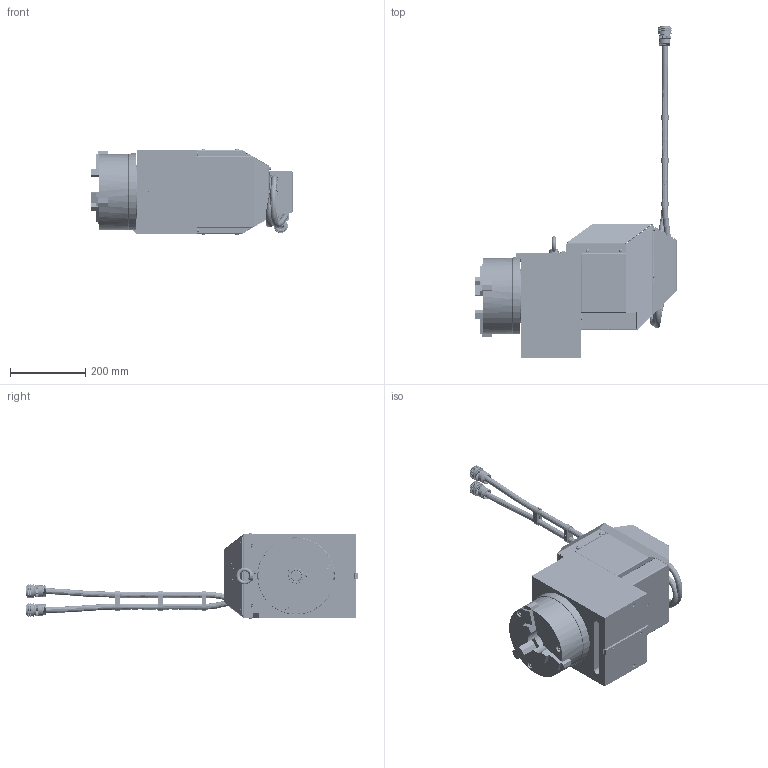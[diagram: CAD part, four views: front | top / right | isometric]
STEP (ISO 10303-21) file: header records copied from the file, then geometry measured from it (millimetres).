
FILE_DESCRIPTION (( 'STEP AP203' ), '1' );
FILE_NAME ('31530.STEP', '2021-03-24T23:04:21', ( '' ), ( '' ), 'SwSTEP 2.0', 'SolidWorks 2021', '' );
FILE_SCHEMA (( 'CONFIG_CONTROL_DESIGN' ));
Length unit declared in the file: inch
Products named in the file (77): M6 (73B); Zylinderschraube mit Innensechskant DIN 912 - M6 x 14^28056(2)_28056-1; 27669-1_TMC-4TH AXIS; 28056-1; 10-32X3/8 (27B); Cable_2^26840-33; 10-32X3/8 (25B); AD-43-ABS_Installed; 21934; MCN868LG^28056(2)_28056-1; BH811LG^28056(2)_28056-1; 31534; 28050; 28058; 4-40X9/16 (25B); 27805-10; 31536; 26844-34; 31532-2; 28075; 31536-3; M10-1.5X30 (25B); 31535-1; M4-0.7X14 (25Z); 28055; 28055_TMC-4TH AXIS; Cable^26844-33; 28081; 28082-1; 31536-2; 26844-33; 27805-11; 27805-8; 31534-1; 24009-1; 10-32X1 (25B); 28164-6; 31530; 28061; 1/4 79Z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
Assembly tree (185 placements, depth 4):
  31530
    28050
    28056-1
      28056(2)^28056-1
        BJ144LG^28056(2)_28056-1
        BH811LG^28056(2)_28056-1
        BH796G^28056(2)_28056-1
        DIN 912  (Regelgewinde) - ersetzt durch DIN EN ISO 4762 M6 x 20^28056(2)_28056-1  x6
        Zylinderschraube mit Innensechskant DIN 912 - M6 x 14^28056(2)_28056-1  x2
        5006008RS---G^28056(2)_28056-1  x2
        DIN 471  _ 9mm _= 300mm 40 x 1^28056(2)_28056-1  x2
        DIN 472 68 x 2^28056(2)_28056-1
        MCN868LG^28056(2)_28056-1
    28164-6
    27805-11
    28053
    28054
    28057
    28058
    27805-12
    27805-9
    27805-8  x6
    28061
    27805-13
    27805-10
    10-32X1/2 (25B)  x5
    10-32X1 (25B)  x4
    10-32X3/8 (25B)  x2
    28081  x6
    24009-1  x4
    M8-1.25X25 (25B)  x4
    M10-1.5X30 (25B)  x6
    M10-1.5X12 41B  x2
    28075  x6
    1/4 79Z
    M6 (73B)
    M6-1.0X20 (25B)
    M5 (71B)  x14
    10-32X3/8 (27B)  x14
    AD-43-ABS_Installed  x6
    31534
      31534-1
      CLS-032-2_96439A540  x8
    31535
      31535-1
      CLS-032-2_96439A540  x2
    27062-2
      27062-2-CHUCK
      M8-1.25X80 (25B)  x3
    28055
      26074-6
    31542
    28082-1
    31532
      31532-1
      CLS-032-2_96439A540  x2
    21934
    22636-4_3225T5  x4
    31532-2  x2
    31536-1  x3
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Bounding box: 537.04 x 880.77 x 229.78 mm (x, y, z)
Volume: 13140361.5 mm3; surface area: 2147062.1 mm2
Topology: 201 solids, 216 shells, 21668 faces, 57933 edges, 37868 vertices
Faces by surface type: plane 10134, cylinder 6944, bspline 2386, cone 1265, torus 811, sphere 128
Entity records: 538567 total; most frequent: CARTESIAN_POINT 225277, ORIENTED_EDGE 66590, DIRECTION 56175, EDGE_CURVE 33296, VERTEX_POINT 22135, LINE 20013, VECTOR 20013, AXIS2_PLACEMENT_3D 18081
